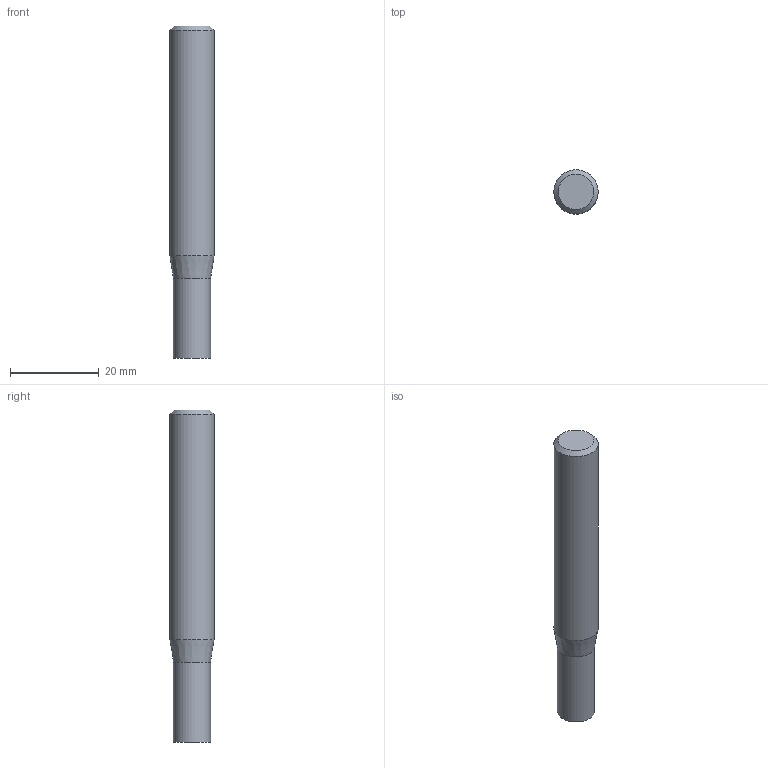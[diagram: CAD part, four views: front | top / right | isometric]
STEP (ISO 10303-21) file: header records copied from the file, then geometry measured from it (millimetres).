
FILE_DESCRIPTION((''),'2;1');
FILE_NAME('C:\Users\nsx150\AppData\Local\Temp\Mastercam 2021\98T1Q6BTT1\TEMP.step','2021-10-21T14:49:39',(''),(''),'STEP Write','Mastercam 2021 ... CNC Software, Inc.','');
FILE_SCHEMA(('AUTOMOTIVE_DESIGN'));
Length unit declared in the file: millimetre
Products named in the file (1): None
Bounding box: 10 x 10 x 75 mm (x, y, z)
Volume: 5399.5 mm3; surface area: 2479.9 mm2
Topology: 2 solids, 2 shells, 8 faces, 10 edges, 6 vertices
Faces by surface type: plane 4, cylinder 2, cone 2
Full cylindrical faces by diameter (mm): 8.4 x1, 10 x1
Entity records: 190 total; most frequent: DIRECTION 32, CARTESIAN_POINT 22, AXIS2_PLACEMENT_3D 16, ORIENTED_EDGE 12, EDGE_LOOP 12, STYLED_ITEM 11, ADVANCED_FACE 8, VERTEX_POINT 6
